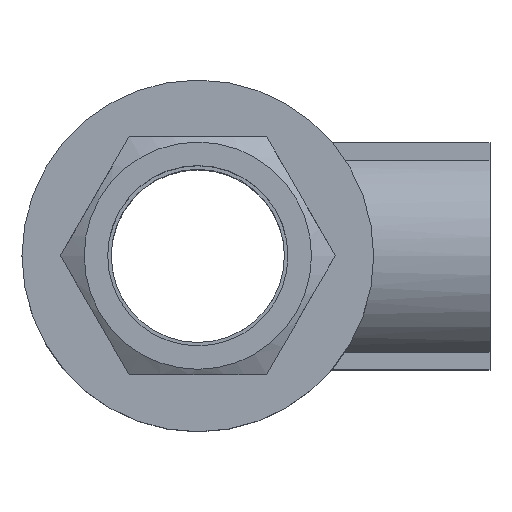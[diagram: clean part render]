
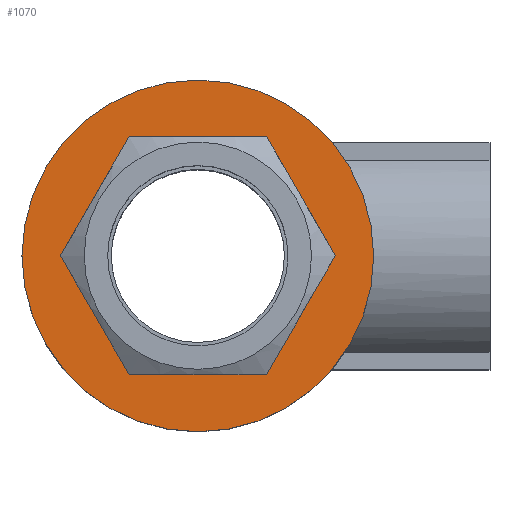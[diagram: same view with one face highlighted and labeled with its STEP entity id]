
A CAD part, top view. The second image highlights one B-rep face of the part: STEP entity #1070.
In plain terms, the highlighted planar face has unit normal (0, 0, 1).
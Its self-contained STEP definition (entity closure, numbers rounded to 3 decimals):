
#1070=ADVANCED_FACE('', (#1080,#1090), #1100, .T.);
#3460=AXIS2_PLACEMENT_3D('Ax2Pl3d', #3470, #3480, #3490);
#3500=AXIS2_PLACEMENT_3D('Ax2Pl3d', #3510, #3520, #3530);
#10090=CARTESIAN_POINT('', (73.605,-11.,134.454));
#10100=CARTESIAN_POINT('', (79.956,0.,
134.454));
#10110=CARTESIAN_POINT('', (79.956,0.,
134.454));
#3470=CARTESIAN_POINT('HicPkt', (83.504,0.,134.454));
#3510=CARTESIAN_POINT('HicPkt', (67.254,0.,134.454));
#10130=CARTESIAN_POINT('', (83.504,0.,134.454));
#10140=CARTESIAN_POINT('', (73.605,11.,134.454));
#10150=CARTESIAN_POINT('', (73.605,11.,134.454));
#10160=CARTESIAN_POINT('', (73.605,-11.,134.454));
#10170=CARTESIAN_POINT('', (60.903,-11.,134.454));
#10180=CARTESIAN_POINT('', (60.903,-11.,134.454));
#10190=CARTESIAN_POINT('', (54.552,0.,
134.454));
#10200=CARTESIAN_POINT('', (54.552,0.,
134.454));
#10210=CARTESIAN_POINT('', (60.903,11.,134.454));
#10220=CARTESIAN_POINT('', (60.903,11.,134.454));
#10510=CIRCLE('Circle', #3500, 16.25);
#13230=DIRECTION('', (0.5,0.866,0.));
#3480=DIRECTION('Axis', (0.,0.,1.));
#3490=DIRECTION('RefDirection', (1.,0.,-0.));
#3520=DIRECTION('Axis', (0.,0.,1.));
#3530=DIRECTION('RefDirection', (1.,0.,-0.));
#13250=DIRECTION('', (-0.5,0.866,0.));
#13260=DIRECTION('', (1.,0.,0.));
#13270=DIRECTION('', (0.5,-0.866,0.));
#13280=DIRECTION('', (-0.5,-0.866,0.));
#13290=DIRECTION('', (-1.,0.,0.));
#14820=EDGE_CURVE('', #14800, #14830, #14840, .T.);
#14870=EDGE_CURVE('', #14880, #14880, #10510, .T.);
#14890=EDGE_CURVE('', #14830, #14900, #14910, .T.);
#14920=EDGE_CURVE('', #14930, #14800, #14940, .T.);
#14950=EDGE_CURVE('', #14960, #14930, #14970, .T.);
#14980=EDGE_CURVE('', #14990, #14960, #15000, .T.);
#15010=EDGE_CURVE('', #14900, #14990, #15020, .T.);
#16890=EDGE_LOOP('Edge_loop', (#16900));
#16910=EDGE_LOOP('Edge_loop', (#16920,#16930,#16940,#16950,#16960,
#16970));
#1090=FACE_BOUND('', #16910, .T.);
#1080=FACE_OUTER_BOUND('Face_outer_bound', #16890, .T.);
#14840=LINE('Line', #10100, #17930);
#14910=LINE('Line', #10140, #17950);
#14940=LINE('Line', #10160, #17960);
#14970=LINE('Line', #10180, #17970);
#15000=LINE('Line', #10200, #17980);
#15020=LINE('Line', #10220, #17990);
#16900=ORIENTED_EDGE('', *, *, #14870, .T.);
#16920=ORIENTED_EDGE('', *, *, #14890, .F.);
#16930=ORIENTED_EDGE('', *, *, #14820, .F.);
#16940=ORIENTED_EDGE('', *, *, #14920, .F.);
#16950=ORIENTED_EDGE('', *, *, #14950, .F.);
#16960=ORIENTED_EDGE('', *, *, #14980, .F.);
#16970=ORIENTED_EDGE('', *, *, #15010, .F.);
#1100=PLANE('Plane', #3460);
#17930=VECTOR('', #13230, 12.702);
#17950=VECTOR('', #13250, 12.702);
#17960=VECTOR('', #13260, 12.702);
#17970=VECTOR('', #13270, 12.702);
#17980=VECTOR('', #13280, 12.702);
#17990=VECTOR('', #13290, 12.702);
#14800=VERTEX_POINT('', #10090);
#14830=VERTEX_POINT('', #10110);
#14880=VERTEX_POINT('', #10130);
#14900=VERTEX_POINT('', #10150);
#14930=VERTEX_POINT('', #10170);
#14960=VERTEX_POINT('', #10190);
#14990=VERTEX_POINT('', #10210);
